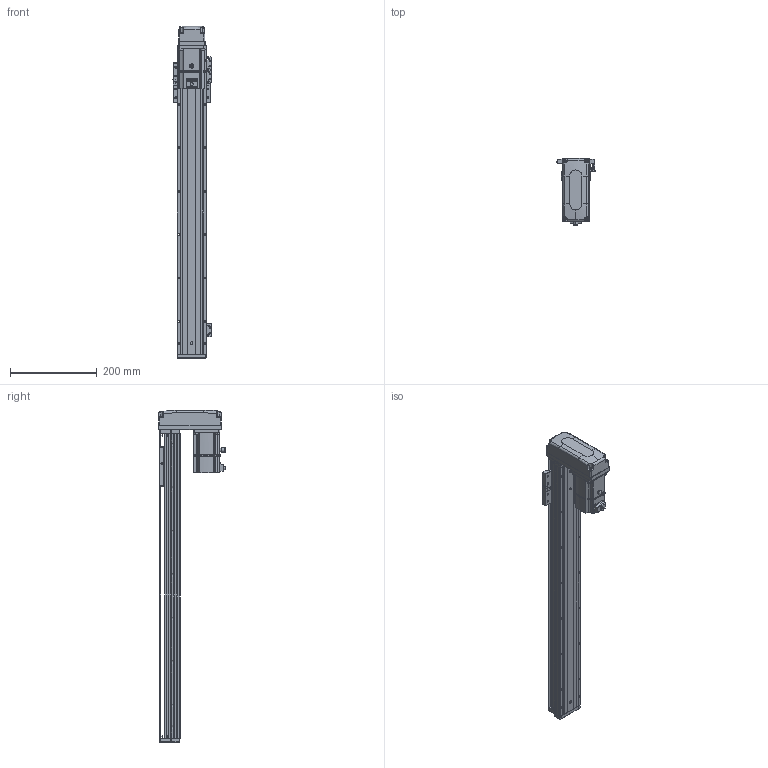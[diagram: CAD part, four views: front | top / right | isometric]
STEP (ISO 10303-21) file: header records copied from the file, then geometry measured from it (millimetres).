
FILE_DESCRIPTION (( 'STEP AP203' ), '1' );
FILE_NAME ('KTHAL60-550-BM-M20-C4L.step', '2022-12-16T02:10:57', ( '微软用户' ), ( '微软中国' ), 'SwSTEP 2.0', 'SolidWorks 2020', '' );
FILE_SCHEMA (( 'CONFIG_CONTROL_DESIGN' ));
Length unit declared in the file: millimetre
Products named in the file (17): CTHA60-021; GTH80-026; KTHA60-001_700; GBT 70.1-M4×16; KTHAL60-550-BM-M20-C4L; KTHLA60-002; GBT77-2000M3-3; KTHA60-004; GB¨uT 70.2-M3¡Á5_M3¡Á6; GBT 70.1-M3℅6; KTHA60-005; GBT 70.3-M3℅6; CTHA60-016; EE_SX911P_R; _X2_4E0983F1_X0_200W_1; CTHA60-017; CTHA60-015-4_CTHA60-015-4
Assembly tree (45 placements, depth 2):
  KTHAL60-550-BM-M20-C4L
    KTHA60-001_700
    KTHLA60-002
    KTHA60-004
    KTHA60-005
    GB¨uT 70.2-M3¡Á5_M3¡Á6  x5
    GBT 70.3-M3℅6  x4
    EE_SX911P_R  x3
    CTHA60-017  x3
    CTHA60-021  x2
    GBT 70.1-M4×16  x8
    GBT77-2000M3-3  x6
    GBT 70.1-M3℅6  x6
    CTHA60-016
    _X2_4E0983F1_X0_200W_1
    CTHA60-015-4_CTHA60-015-4
    GTH80-026
Bounding box: 87.82 x 155.2 x 764 mm (x, y, z)
Volume: 2004960.1 mm3; surface area: 432007.5 mm2
Topology: 48 solids, 48 shells, 2371 faces, 5660 edges, 3481 vertices
Faces by surface type: plane 1271, cylinder 629, cone 272, bspline 103, torus 82, sphere 14
Entity records: 46539 total; most frequent: CARTESIAN_POINT 10378, DIRECTION 7031, ORIENTED_EDGE 6944, EDGE_CURVE 3472, AXIS2_PLACEMENT_3D 2418, LINE 2195, VECTOR 2195, VERTEX_POINT 2165
